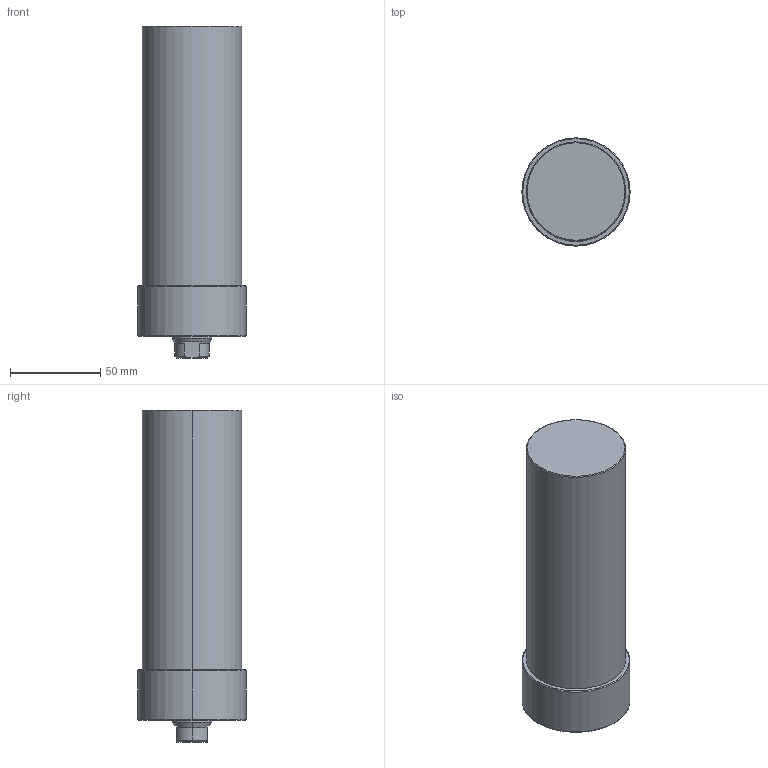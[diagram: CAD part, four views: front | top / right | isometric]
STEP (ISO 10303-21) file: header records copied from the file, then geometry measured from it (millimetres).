
FILE_DESCRIPTION (( 'STEP AP203' ), '1' );
FILE_NAME ('CLLU-055GA-115.STEP', '2020-01-06T07:08:07', ( '' ), ( '' ), 'SwSTEP 2.0', 'SolidWorks 2015', '' );
FILE_SCHEMA (( 'CONFIG_CONTROL_DESIGN' ));
Length unit declared in the file: millimetre
Products named in the file (1): CLLU-055GA-115
Bounding box: 60 x 60 x 184 mm (x, y, z)
Volume: 421620.5 mm3; surface area: 38204.1 mm2
Topology: 1 solids, 1 shells, 64 faces, 143 edges, 80 vertices
Faces by surface type: cone 25, cylinder 23, plane 10, torus 6
Entity records: 1805 total; most frequent: DIRECTION 330, CARTESIAN_POINT 318, ORIENTED_EDGE 266, AXIS2_PLACEMENT_3D 140, EDGE_CURVE 133, VERTEX_POINT 80, CIRCLE 75, EDGE_LOOP 73
